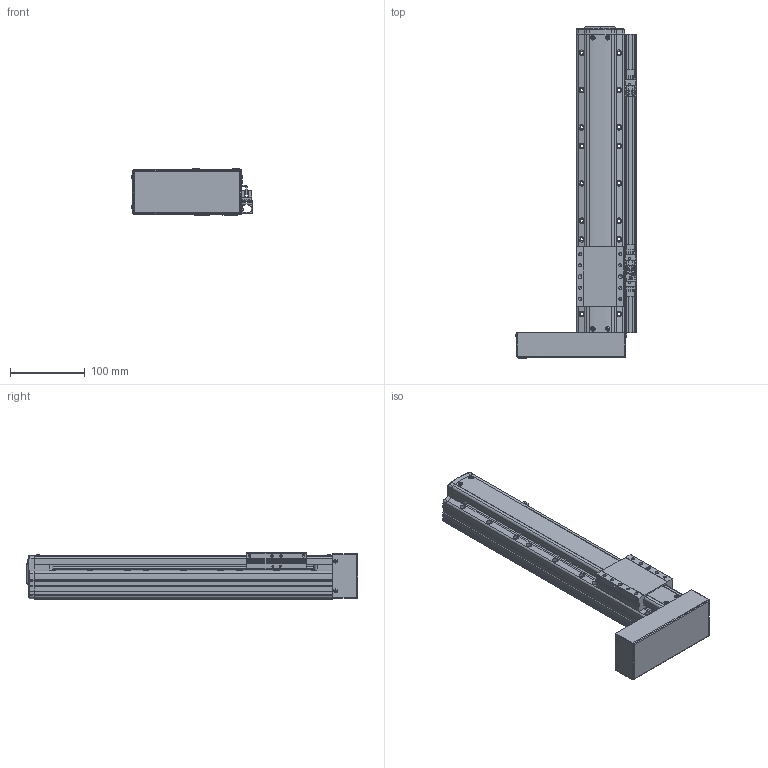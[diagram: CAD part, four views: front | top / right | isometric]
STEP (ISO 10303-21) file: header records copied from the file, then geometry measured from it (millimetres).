
FILE_DESCRIPTION(('STEP AP214'),'1');
FILE_NAME('Z:/Web/3D/PSA65/STP/PSA65-250 (3D)/PSA65ㅁㅁ-250PL+3SR.stp','2014-06-25T03:41:00',(' '),(' '),'Spatial InterOp 3D',' ',' ');
FILE_SCHEMA(('automotive_design'));
Length unit declared in the file: millimetre
Products named in the file (67): SLIDE; RRCV-PA060; 1; 2; 3; 4; 5; 6; 7; 8; 9; 10; 11; 12; 13; 14; 15; 16; 17; 18; 19; 20; 21; 22; 23; 24; 25; 26; 27; 28; 29; 30; 31; 스크루 : Round - M3.0 x 8.0; RN8 x 0.75; SHAFT-SAN65; BASE; 스크루 : Round - M3.0 x 6.0; BTCV-SAN65; BHCS M3 X 6L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
Bounding box: 162.06 x 444.8 x 62 mm (x, y, z)
Volume: 1597382.6 mm3; surface area: 274145.6 mm2
Topology: 67 solids, 67 shells, 2264 faces, 5967 edges, 3832 vertices
Faces by surface type: plane 1391, cylinder 589, cone 199, sphere 50, bspline 19, torus 16
Entity records: 89618 total; most frequent: CARTESIAN_POINT 13739, DIRECTION 12014, ORIENTED_EDGE 11682, EDGE_CURVE 5841, LINE 4120, VECTOR 4120, AXIS2_PLACEMENT_3D 3947, VERTEX_POINT 3832
